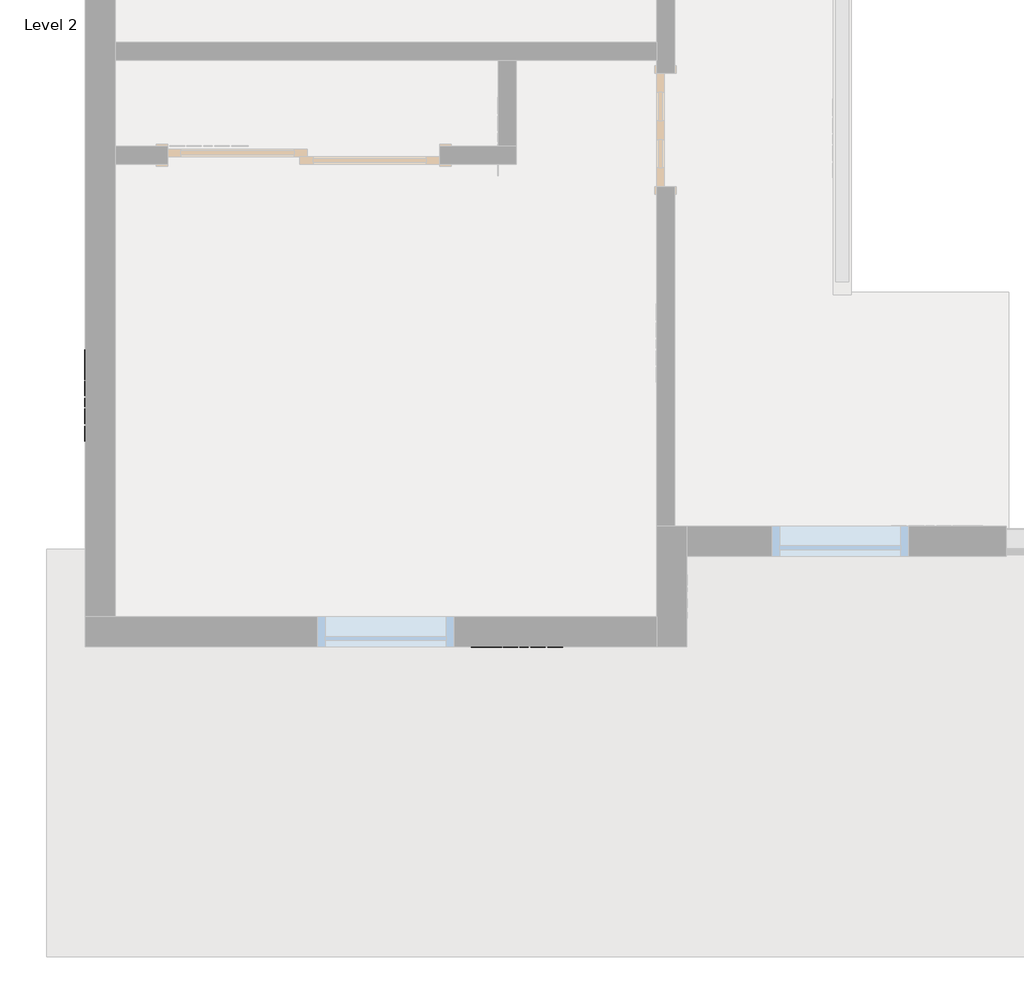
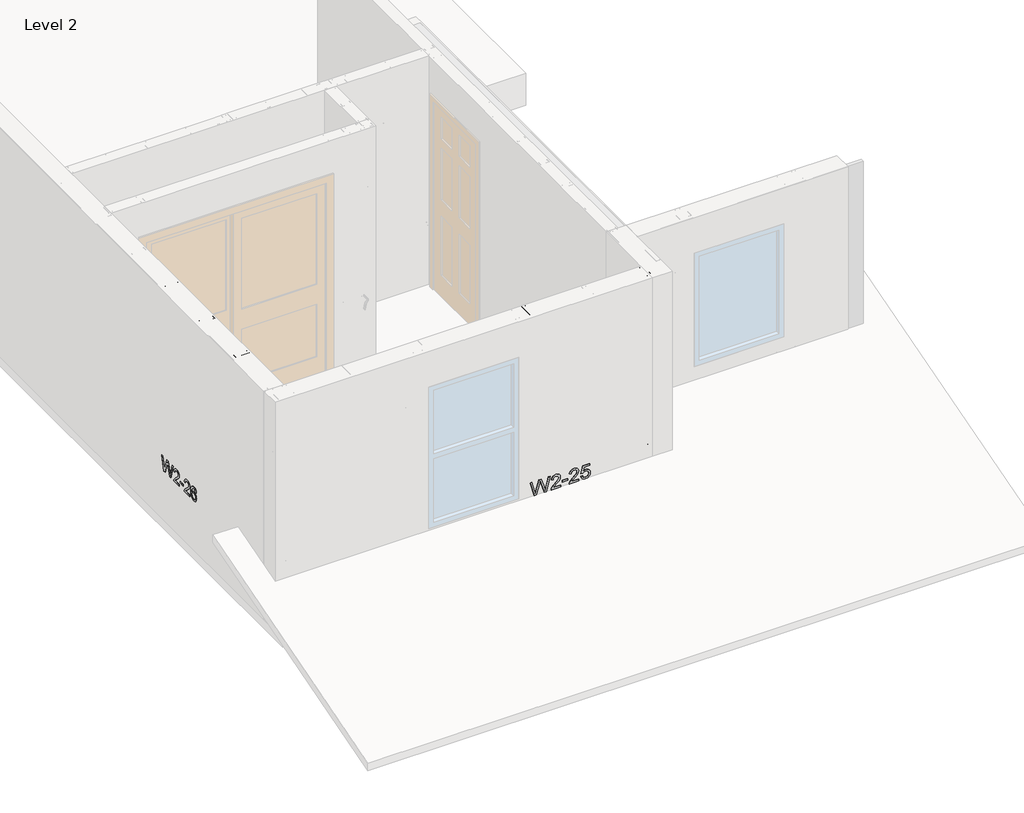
# One storey, part 4 of 46: 6 columns, 2 fasteners, 1 beam.
"""IFC4 building model written with IfcOpenShell, lengths in millimetres."""

from ifc_helpers import new_model, si_unit, point, frame, origin, place, context, project, spatial, circle_curve, ellipse_curve, trimmed, transform, mapped, element, save
from ifc_brep_helpers import plane_surface, extruded_surface, advanced_brep
from components import beam_550nf150_43_00d6688c, panellabel_a3b1b412, panellabel_652a8146

model = new_model("IFC4")

# Units and contexts
model_context = context("Model", 3, world=origin())
ifc_project = project(units=[si_unit("LENGTHUNIT", "METRE", prefix="MILLI")], contexts=[model_context])

# Site, building, storey
site = spatial("IfcSite", under=ifc_project)
building = spatial("IfcBuilding", under=site)
storey = spatial("IfcBuildingStorey", under=building, Name="Level 2", Elevation=3060.7)

# Beam
placement = place(None, origin())
beam_550nf150_43_shape = beam_550nf150_43_00d6688c(model_context)
element("IfcBeam", 1, ObjectType="BIMSF-SSMA-S : 550NF150-43", at=placement, inside=storey, context=model_context, shape_type="MappedRepresentation", body=[
    mapped(beam_550nf150_43_shape, transform((-11384.0913349, 2117.852221, 3076.575), x_axis=(0.0, -1.0000000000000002, 0.0), y_axis=(0.0, 0.0, -1.0000000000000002), z_axis=(1.0000000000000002, 0.0, 0.0))),
])

# Columns
element("IfcColumn", 2, ObjectType="BIMSF-SSMA-S-Column : 550NF150-43", at=placement, inside=storey, context=model_context, shape_type="AdvancedBrep", body=[
    advanced_brep(
    [(-11314.2413349, 1813.052221, 3061.5929687), (-11453.9413349, 1813.052221, 3061.5929687), (-11453.9413349, 1851.152221, 3061.5929687), (-11448.0164507, 1851.152221, 3061.5929687), (-11448.0164507, 1850.0025367, 3061.5929687), (-11452.7916507, 1850.0025367, 3061.5929687), (-11452.7916507, 1814.2019052, 3061.5929687), (-11315.3910191, 1814.2019052, 3061.5929687), (-11315.3910191, 1850.0025367, 3061.5929687), (-11320.1662191, 1850.0025367, 3061.5929687), (-11320.1662191, 1851.152221, 3061.5929687), (-11314.2413349, 1851.152221, 3061.5929687), (-11314.2413349, 1813.052221, 5523.6070313), (-11453.9413349, 1813.052221, 5523.6070313), (-11396.7913349, 1813.052221, 3671.1929688), (-11371.3913349, 1813.052221, 3671.1929688), (-11396.7913349, 1813.052221, 4890.3929687), (-11371.3913349, 1813.052221, 4890.3929687), (-11453.9413349, 1851.152221, 5523.6070313), (-11448.0164507, 1851.152221, 5523.6070313), (-11448.0164507, 1850.0025367, 5523.6070313), (-11452.7916507, 1850.0025367, 5523.6070313), (-11452.7916507, 1814.2019052, 5523.6070313), (-11315.3910191, 1814.2019052, 5523.6070313), (-11371.3913349, 1814.2019052, 3671.1929688), (-11396.7913349, 1814.2019052, 3671.1929687), (-11371.3913349, 1814.2019052, 4890.3929687), (-11396.7913349, 1814.2019052, 4890.3929687), (-11315.3910191, 1850.0025367, 5523.6070313), (-11320.1662191, 1850.0025367, 5523.6070313), (-11320.1662191, 1851.152221, 5523.6070313), (-11314.2413349, 1851.152221, 5523.6070313)],
    [
        (0, 1),
        (1, 2),
        (2, 3),
        (3, 4),
        (4, 5),
        (5, 6),
        (6, 7),
        (7, 8),
        (8, 9),
        (9, 10),
        (10, 11),
        (11, 0),
        (0, 12),
        (12, 13),
        (13, 1),
        (14, 15, circle_curve(frame((-11384.0913349, 1813.052221, 3671.1929687), z_axis=(0.0, 1.0, 0.0), x_axis=(-1.0, 0.0, 0.0)), 12.7)),
        (15, 14, circle_curve(frame((-11384.0913349, 1813.052221, 3671.1929687), z_axis=(0.0, 1.0, 0.0), x_axis=(-1.0, 0.0, 0.0)), 12.7)),
        (16, 17, circle_curve(frame((-11384.0913349, 1813.052221, 4890.3929687), z_axis=(0.0, 1.0, 0.0), x_axis=(-1.0, 0.0, 0.0)), 12.7)),
        (17, 16, circle_curve(frame((-11384.0913349, 1813.052221, 4890.3929687), z_axis=(0.0, 1.0, 0.0), x_axis=(-1.0, 0.0, 0.0)), 12.7)),
        (13, 18),
        (18, 2),
        (18, 19),
        (19, 3),
        (19, 20),
        (20, 4),
        (20, 21),
        (21, 5),
        (21, 22),
        (22, 6),
        (22, 23),
        (23, 7),
        (24, 25, circle_curve(frame((-11384.0913349, 1814.2019052, 3671.1929687), z_axis=(0.0, -1.0, 0.0), x_axis=(-1.0, 0.0, 0.0)), 12.7)),
        (25, 24, circle_curve(frame((-11384.0913349, 1814.2019052, 3671.1929687), z_axis=(0.0, -1.0, 0.0), x_axis=(-1.0, 0.0, 0.0)), 12.7)),
        (26, 27, circle_curve(frame((-11384.0913349, 1814.2019052, 4890.3929687), z_axis=(0.0, -1.0, 0.0), x_axis=(-1.0, 0.0, 0.0)), 12.7)),
        (27, 26, circle_curve(frame((-11384.0913349, 1814.2019052, 4890.3929687), z_axis=(0.0, -1.0, 0.0), x_axis=(-1.0, 0.0, 0.0)), 12.7)),
        (23, 28),
        (28, 8),
        (28, 29),
        (29, 9),
        (29, 30),
        (30, 10),
        (30, 31),
        (31, 11),
        (31, 12),
        (24, 15),
        (14, 25),
        (26, 17),
        (16, 27),
    ],
    [
        plane_surface(frame((-11314.2413349, 1813.052221, 3061.5929687), z_axis=(0.0, 0.0, -1.0), x_axis=(0.0, -1.0, 0.0))),
        plane_surface(frame((-11453.9413349, 1813.052221, 5523.6070313), z_axis=(0.0, -1.0, 0.0), x_axis=(0.0, 0.0, -1.0))),
        plane_surface(frame((-11453.9413349, 1851.152221, 5523.6070313), z_axis=(-1.0, 0.0, 0.0), x_axis=(0.0, 0.0, -1.0))),
        plane_surface(frame((-11448.0164507, 1851.152221, 5523.6070313), z_axis=(0.0, 1.0, 0.0), x_axis=(0.0, 0.0, -1.0))),
        plane_surface(frame((-11448.0164507, 1850.0025367, 5523.6070313), z_axis=(1.0, 0.0, 0.0), x_axis=(0.0, 0.0, -1.0))),
        plane_surface(frame((-11452.7916507, 1850.0025367, 5523.6070313), z_axis=(0.0, -1.0, 0.0), x_axis=(0.0, 0.0, -1.0))),
        plane_surface(frame((-11452.7916507, 1814.2019052, 5523.6070313), z_axis=(1.0, 0.0, 0.0), x_axis=(0.0, 0.0, -1.0))),
        plane_surface(frame((-11315.3910191, 1814.2019052, 5523.6070313), z_axis=(0.0, 1.0, 0.0), x_axis=(0.0, 0.0, -1.0))),
        plane_surface(frame((-11315.3910191, 1850.0025367, 5523.6070313), z_axis=(-1.0, 0.0, 0.0), x_axis=(0.0, 0.0, -1.0))),
        plane_surface(frame((-11320.1662191, 1850.0025367, 5523.6070313), z_axis=(0.0, -1.0, 0.0), x_axis=(0.0, 0.0, -1.0))),
        plane_surface(frame((-11320.1662191, 1851.152221, 5523.6070313), z_axis=(-1.0, 0.0, 0.0), x_axis=(0.0, 0.0, -1.0))),
        plane_surface(frame((-11314.2413349, 1851.152221, 5523.6070313), z_axis=(0.0, 1.0, 0.0), x_axis=(0.0, 0.0, -1.0))),
        plane_surface(frame((-11314.2413349, 1813.052221, 5523.6070313), z_axis=(1.0, 0.0, 0.0), x_axis=(0.0, 0.0, -1.0))),
        plane_surface(frame((-11314.2413349, 1813.052221, 5523.6070313), z_axis=(0.0, 0.0, 1.0), x_axis=(0.0, 1.0, 0.0))),
        extruded_surface(trimmed(ellipse_curve(frame((-11384.0913349, 4294.1162835, 3671.1929688), z_axis=(0.0, -1.0, 0.0), x_axis=(-1.0, 0.0, 0.0)), 12.7, 12.7), [point((-11371.3913349, 4294.1162835, 3671.1929688))], [point((-11396.7913349, 4294.1162835, 3671.1929688))], True, "CARTESIAN"), (0.0, 4924.028125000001, 0.0), 4924.028125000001),
        extruded_surface(trimmed(ellipse_curve(frame((-11384.0913349, 4294.1162835, 3671.1929688), z_axis=(0.0, -1.0, 0.0), x_axis=(-1.0, 0.0, 0.0)), 12.7, 12.7), [point((-11396.7913349, 4294.1162835, 3671.1929688))], [point((-11371.3913349, 4294.1162835, 3671.1929688))], True, "CARTESIAN"), (0.0, 4924.028125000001, 0.0), 4924.028125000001),
        extruded_surface(trimmed(ellipse_curve(frame((-11384.0913349, 4294.1162835, 4890.3929687), z_axis=(0.0, -1.0, 0.0), x_axis=(-1.0, 0.0, 0.0)), 12.7, 12.7), [point((-11371.3913349, 4294.1162835, 4890.3929687))], [point((-11396.7913349, 4294.1162835, 4890.3929687))], True, "CARTESIAN"), (0.0, 4924.028125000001, 0.0), 4924.028125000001),
        extruded_surface(trimmed(ellipse_curve(frame((-11384.0913349, 4294.1162835, 4890.3929687), z_axis=(0.0, -1.0, 0.0), x_axis=(-1.0, 0.0, 0.0)), 12.7, 12.7), [point((-11396.7913349, 4294.1162835, 4890.3929687))], [point((-11371.3913349, 4294.1162835, 4890.3929687))], True, "CARTESIAN"), (0.0, 4924.028125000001, 0.0), 4924.028125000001),
    ],
    [
        (0, [[1, 2, 3, 4, 5, 6, 7, 8, 9, 10, 11, 12]]),
        (1, [[-1, 13, 14, 15], [16, 17], [18, 19]]),
        (2, [[-2, -15, 20, 21]]),
        (3, [[-3, -21, 22, 23]]),
        (4, [[-4, -23, 24, 25]]),
        (5, [[-5, -25, 26, 27]]),
        (6, [[-6, -27, 28, 29]]),
        (7, [[-7, -29, 30, 31], [32, 33], [34, 35]]),
        (8, [[-8, -31, 36, 37]]),
        (9, [[-9, -37, 38, 39]]),
        (10, [[-10, -39, 40, 41]]),
        (11, [[-11, -41, 42, 43]]),
        (12, [[-12, -43, 44, -13]]),
        (13, [[-14, -44, -42, -40, -38, -36, -30, -28, -26, -24, -22, -20]]),
        (14, [[45, -16, 46, -32]]),
        (15, [[-45, -33, -46, -17]]),
        (16, [[47, -18, 48, -34]]),
        (17, [[-47, -35, -48, -19]]),
    ],
),
])
element("IfcColumn", 3, ObjectType="BIMSF-SSMA-S-Column : 550NF150-43", at=placement, inside=storey, context=model_context, shape_type="AdvancedBrep", body=[
    advanced_brep(
    [(-15124.2413349, 2543.302221, 3061.5929687), (-15263.9413349, 2543.302221, 3061.5929687), (-15263.9413349, 2581.402221, 3061.5929687), (-15258.0164507, 2581.402221, 3061.5929687), (-15258.0164507, 2580.2525367, 3061.5929687), (-15262.7916507, 2580.2525367, 3061.5929687), (-15262.7916507, 2544.4519052, 3061.5929687), (-15125.3910191, 2544.4519052, 3061.5929687), (-15125.3910191, 2580.2525367, 3061.5929687), (-15130.1662191, 2580.2525367, 3061.5929687), (-15130.1662191, 2581.402221, 3061.5929687), (-15124.2413349, 2581.402221, 3061.5929687), (-15124.2413349, 2543.302221, 5523.6070313), (-15263.9413349, 2543.302221, 5523.6070313), (-15206.7913349, 2543.302221, 3671.1929688), (-15181.3913349, 2543.302221, 3671.1929688), (-15206.7913349, 2543.302221, 4890.3929687), (-15181.3913349, 2543.302221, 4890.3929687), (-15263.9413349, 2581.402221, 5523.6070313), (-15258.0164507, 2581.402221, 5523.6070313), (-15258.0164507, 2580.2525367, 5523.6070313), (-15262.7916507, 2580.2525367, 5523.6070313), (-15262.7916507, 2544.4519052, 5523.6070313), (-15125.3910191, 2544.4519052, 5523.6070313), (-15181.3913349, 2544.4519052, 3671.1929688), (-15206.7913349, 2544.4519052, 3671.1929688), (-15181.3913349, 2544.4519052, 4890.3929687), (-15206.7913349, 2544.4519052, 4890.3929687), (-15125.3910191, 2580.2525367, 5523.6070313), (-15130.1662191, 2580.2525367, 5523.6070313), (-15130.1662191, 2581.402221, 5523.6070313), (-15124.2413349, 2581.402221, 5523.6070313)],
    [
        (0, 1),
        (1, 2),
        (2, 3),
        (3, 4),
        (4, 5),
        (5, 6),
        (6, 7),
        (7, 8),
        (8, 9),
        (9, 10),
        (10, 11),
        (11, 0),
        (0, 12),
        (12, 13),
        (13, 1),
        (14, 15, circle_curve(frame((-15194.0913349, 2543.302221, 3671.1929688), z_axis=(0.0, 1.0, 0.0), x_axis=(-1.0, 0.0, 0.0)), 12.7)),
        (15, 14, circle_curve(frame((-15194.0913349, 2543.302221, 3671.1929688), z_axis=(0.0, 1.0, 0.0), x_axis=(-1.0, 0.0, 0.0)), 12.7)),
        (16, 17, circle_curve(frame((-15194.0913349, 2543.302221, 4890.3929688), z_axis=(0.0, 1.0, 0.0), x_axis=(-1.0, 0.0, 0.0)), 12.7)),
        (17, 16, circle_curve(frame((-15194.0913349, 2543.302221, 4890.3929688), z_axis=(0.0, 1.0, 0.0), x_axis=(-1.0, 0.0, 0.0)), 12.7)),
        (13, 18),
        (18, 2),
        (18, 19),
        (19, 3),
        (19, 20),
        (20, 4),
        (20, 21),
        (21, 5),
        (21, 22),
        (22, 6),
        (22, 23),
        (23, 7),
        (24, 25, circle_curve(frame((-15194.0913349, 2544.4519052, 3671.1929688), z_axis=(0.0, -1.0, 0.0), x_axis=(-1.0, 0.0, 0.0)), 12.7)),
        (25, 24, circle_curve(frame((-15194.0913349, 2544.4519052, 3671.1929688), z_axis=(0.0, -1.0, 0.0), x_axis=(-1.0, 0.0, 0.0)), 12.7)),
        (26, 27, circle_curve(frame((-15194.0913349, 2544.4519052, 4890.3929687), z_axis=(0.0, -1.0, 0.0), x_axis=(-1.0, 0.0, 0.0)), 12.7)),
        (27, 26, circle_curve(frame((-15194.0913349, 2544.4519052, 4890.3929687), z_axis=(0.0, -1.0, 0.0), x_axis=(-1.0, 0.0, 0.0)), 12.7)),
        (23, 28),
        (28, 8),
        (28, 29),
        (29, 9),
        (29, 30),
        (30, 10),
        (30, 31),
        (31, 11),
        (31, 12),
        (24, 15),
        (14, 25),
        (26, 17),
        (16, 27),
    ],
    [
        plane_surface(frame((-15124.2413349, 2543.302221, 3061.5929687), z_axis=(0.0, 0.0, -1.0), x_axis=(0.0, -1.0, 0.0))),
        plane_surface(frame((-15263.9413349, 2543.302221, 5523.6070313), z_axis=(0.0, -1.0, 0.0), x_axis=(0.0, 0.0, -1.0))),
        plane_surface(frame((-15263.9413349, 2581.402221, 5523.6070313), z_axis=(-1.0, 0.0, 0.0), x_axis=(0.0, 0.0, -1.0))),
        plane_surface(frame((-15258.0164507, 2581.402221, 5523.6070313), z_axis=(0.0, 1.0, 0.0), x_axis=(0.0, 0.0, -1.0))),
        plane_surface(frame((-15258.0164507, 2580.2525367, 5523.6070313), z_axis=(1.0, 0.0, 0.0), x_axis=(0.0, 0.0, -1.0))),
        plane_surface(frame((-15262.7916507, 2580.2525367, 5523.6070313), z_axis=(0.0, -1.0, 0.0), x_axis=(0.0, 0.0, -1.0))),
        plane_surface(frame((-15262.7916507, 2544.4519052, 5523.6070313), z_axis=(1.0, 0.0, 0.0), x_axis=(0.0, 0.0, -1.0))),
        plane_surface(frame((-15125.3910191, 2544.4519052, 5523.6070313), z_axis=(0.0, 1.0, 0.0), x_axis=(0.0, 0.0, -1.0))),
        plane_surface(frame((-15125.3910191, 2580.2525367, 5523.6070313), z_axis=(-1.0, 0.0, 0.0), x_axis=(0.0, 0.0, -1.0))),
        plane_surface(frame((-15130.1662191, 2580.2525367, 5523.6070313), z_axis=(0.0, -1.0, 0.0), x_axis=(0.0, 0.0, -1.0))),
        plane_surface(frame((-15130.1662191, 2581.402221, 5523.6070313), z_axis=(-1.0, 0.0, 0.0), x_axis=(0.0, 0.0, -1.0))),
        plane_surface(frame((-15124.2413349, 2581.402221, 5523.6070313), z_axis=(0.0, 1.0, 0.0), x_axis=(0.0, 0.0, -1.0))),
        plane_surface(frame((-15124.2413349, 2543.302221, 5523.6070313), z_axis=(1.0, 0.0, 0.0), x_axis=(0.0, 0.0, -1.0))),
        plane_surface(frame((-15124.2413349, 2543.302221, 5523.6070313), z_axis=(0.0, 0.0, 1.0), x_axis=(0.0, 1.0, 0.0))),
        extruded_surface(trimmed(ellipse_curve(frame((-15194.0913349, 5024.3662835, 3671.1929688), z_axis=(0.0, -1.0, 0.0), x_axis=(-1.0, 0.0, 0.0)), 12.7, 12.7), [point((-15181.3913349, 5024.3662835, 3671.1929688))], [point((-15206.7913349, 5024.3662835, 3671.1929688))], True, "CARTESIAN"), (0.0, 4924.028125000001, 0.0), 4924.028125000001),
        extruded_surface(trimmed(ellipse_curve(frame((-15194.0913349, 5024.3662835, 3671.1929688), z_axis=(0.0, -1.0, 0.0), x_axis=(-1.0, 0.0, 0.0)), 12.7, 12.7), [point((-15206.7913349, 5024.3662835, 3671.1929688))], [point((-15181.3913349, 5024.3662835, 3671.1929688))], True, "CARTESIAN"), (0.0, 4924.028125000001, 0.0), 4924.028125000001),
        extruded_surface(trimmed(ellipse_curve(frame((-15194.0913349, 5024.3662835, 4890.3929687), z_axis=(0.0, -1.0, 0.0), x_axis=(-1.0, 0.0, 0.0)), 12.7, 12.7), [point((-15181.3913349, 5024.3662835, 4890.3929687))], [point((-15206.7913349, 5024.3662835, 4890.3929687))], True, "CARTESIAN"), (0.0, 4924.028125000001, 0.0), 4924.028125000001),
        extruded_surface(trimmed(ellipse_curve(frame((-15194.0913349, 5024.3662835, 4890.3929687), z_axis=(0.0, -1.0, 0.0), x_axis=(-1.0, 0.0, 0.0)), 12.7, 12.7), [point((-15206.7913349, 5024.3662835, 4890.3929687))], [point((-15181.3913349, 5024.3662835, 4890.3929687))], True, "CARTESIAN"), (0.0, 4924.028125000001, 0.0), 4924.028125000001),
    ],
    [
        (0, [[1, 2, 3, 4, 5, 6, 7, 8, 9, 10, 11, 12]]),
        (1, [[-1, 13, 14, 15], [16, 17], [18, 19]]),
        (2, [[-2, -15, 20, 21]]),
        (3, [[-3, -21, 22, 23]]),
        (4, [[-4, -23, 24, 25]]),
        (5, [[-5, -25, 26, 27]]),
        (6, [[-6, -27, 28, 29]]),
        (7, [[-7, -29, 30, 31], [32, 33], [34, 35]]),
        (8, [[-8, -31, 36, 37]]),
        (9, [[-9, -37, 38, 39]]),
        (10, [[-10, -39, 40, 41]]),
        (11, [[-11, -41, 42, 43]]),
        (12, [[-12, -43, 44, -13]]),
        (13, [[-14, -44, -42, -40, -38, -36, -30, -28, -26, -24, -22, -20]]),
        (14, [[45, -16, 46, -32]]),
        (15, [[-45, -33, -46, -17]]),
        (16, [[47, -18, 48, -34]]),
        (17, [[-47, -35, -48, -19]]),
    ],
),
])
element("IfcColumn", 4, ObjectType="BIMSF-SSMA-S-Column : 550NF150-43", at=placement, inside=storey, context=model_context, shape_type="AdvancedBrep", body=[
    advanced_brep(
    [(-15124.2413349, 3152.902221, 3061.5929687), (-15263.9413349, 3152.902221, 3061.5929687), (-15263.9413349, 3191.002221, 3061.5929687), (-15258.0164507, 3191.002221, 3061.5929687), (-15258.0164507, 3189.8525367, 3061.5929687), (-15262.7916507, 3189.8525367, 3061.5929687), (-15262.7916507, 3154.0519052, 3061.5929687), (-15125.3910191, 3154.0519052, 3061.5929687), (-15125.3910191, 3189.8525367, 3061.5929687), (-15130.1662191, 3189.8525367, 3061.5929687), (-15130.1662191, 3191.002221, 3061.5929687), (-15124.2413349, 3191.002221, 3061.5929687), (-15124.2413349, 3152.902221, 5523.6070313), (-15263.9413349, 3152.902221, 5523.6070313), (-15206.7913349, 3152.902221, 3671.1929688), (-15181.3913349, 3152.902221, 3671.1929688), (-15206.7913349, 3152.902221, 4890.3929687), (-15181.3913349, 3152.902221, 4890.3929687), (-15263.9413349, 3191.002221, 5523.6070313), (-15258.0164507, 3191.002221, 5523.6070313), (-15258.0164507, 3189.8525367, 5523.6070313), (-15262.7916507, 3189.8525367, 5523.6070313), (-15262.7916507, 3154.0519052, 5523.6070313), (-15125.3910191, 3154.0519052, 5523.6070313), (-15181.3913349, 3154.0519052, 3671.1929688), (-15206.7913349, 3154.0519052, 3671.1929688), (-15181.3913349, 3154.0519052, 4890.3929687), (-15206.7913349, 3154.0519052, 4890.3929687), (-15125.3910191, 3189.8525367, 5523.6070313), (-15130.1662191, 3189.8525367, 5523.6070313), (-15130.1662191, 3191.002221, 5523.6070313), (-15124.2413349, 3191.002221, 5523.6070313)],
    [
        (0, 1),
        (1, 2),
        (2, 3),
        (3, 4),
        (4, 5),
        (5, 6),
        (6, 7),
        (7, 8),
        (8, 9),
        (9, 10),
        (10, 11),
        (11, 0),
        (0, 12),
        (12, 13),
        (13, 1),
        (14, 15, circle_curve(frame((-15194.0913349, 3152.902221, 3671.1929688), z_axis=(0.0, 1.0, 0.0), x_axis=(-1.0, 0.0, 0.0)), 12.7)),
        (15, 14, circle_curve(frame((-15194.0913349, 3152.902221, 3671.1929688), z_axis=(0.0, 1.0, 0.0), x_axis=(-1.0, 0.0, 0.0)), 12.7)),
        (16, 17, circle_curve(frame((-15194.0913349, 3152.902221, 4890.3929688), z_axis=(0.0, 1.0, 0.0), x_axis=(-1.0, 0.0, 0.0)), 12.7)),
        (17, 16, circle_curve(frame((-15194.0913349, 3152.902221, 4890.3929688), z_axis=(0.0, 1.0, 0.0), x_axis=(-1.0, 0.0, 0.0)), 12.7)),
        (13, 18),
        (18, 2),
        (18, 19),
        (19, 3),
        (19, 20),
        (20, 4),
        (20, 21),
        (21, 5),
        (21, 22),
        (22, 6),
        (22, 23),
        (23, 7),
        (24, 25, circle_curve(frame((-15194.0913349, 3154.0519052, 3671.1929688), z_axis=(0.0, -1.0, 0.0), x_axis=(-1.0, 0.0, 0.0)), 12.7)),
        (25, 24, circle_curve(frame((-15194.0913349, 3154.0519052, 3671.1929688), z_axis=(0.0, -1.0, 0.0), x_axis=(-1.0, 0.0, 0.0)), 12.7)),
        (26, 27, circle_curve(frame((-15194.0913349, 3154.0519052, 4890.3929687), z_axis=(0.0, -1.0, 0.0), x_axis=(-1.0, 0.0, 0.0)), 12.7)),
        (27, 26, circle_curve(frame((-15194.0913349, 3154.0519052, 4890.3929687), z_axis=(0.0, -1.0, 0.0), x_axis=(-1.0, 0.0, 0.0)), 12.7)),
        (23, 28),
        (28, 8),
        (28, 29),
        (29, 9),
        (29, 30),
        (30, 10),
        (30, 31),
        (31, 11),
        (31, 12),
        (24, 15),
        (14, 25),
        (26, 17),
        (16, 27),
    ],
    [
        plane_surface(frame((-15124.2413349, 3152.902221, 3061.5929687), z_axis=(0.0, 0.0, -1.0), x_axis=(0.0, -1.0, 0.0))),
        plane_surface(frame((-15263.9413349, 3152.902221, 5523.6070313), z_axis=(0.0, -1.0, 0.0), x_axis=(0.0, 0.0, -1.0))),
        plane_surface(frame((-15263.9413349, 3191.002221, 5523.6070313), z_axis=(-1.0, 0.0, 0.0), x_axis=(0.0, 0.0, -1.0))),
        plane_surface(frame((-15258.0164507, 3191.002221, 5523.6070313), z_axis=(0.0, 1.0, 0.0), x_axis=(0.0, 0.0, -1.0))),
        plane_surface(frame((-15258.0164507, 3189.8525367, 5523.6070313), z_axis=(1.0, 0.0, 0.0), x_axis=(0.0, 0.0, -1.0))),
        plane_surface(frame((-15262.7916507, 3189.8525367, 5523.6070313), z_axis=(0.0, -1.0, 0.0), x_axis=(0.0, 0.0, -1.0))),
        plane_surface(frame((-15262.7916507, 3154.0519052, 5523.6070313), z_axis=(1.0, 0.0, 0.0), x_axis=(0.0, 0.0, -1.0))),
        plane_surface(frame((-15125.3910191, 3154.0519052, 5523.6070313), z_axis=(0.0, 1.0, 0.0), x_axis=(0.0, 0.0, -1.0))),
        plane_surface(frame((-15125.3910191, 3189.8525367, 5523.6070313), z_axis=(-1.0, 0.0, 0.0), x_axis=(0.0, 0.0, -1.0))),
        plane_surface(frame((-15130.1662191, 3189.8525367, 5523.6070313), z_axis=(0.0, -1.0, 0.0), x_axis=(0.0, 0.0, -1.0))),
        plane_surface(frame((-15130.1662191, 3191.002221, 5523.6070313), z_axis=(-1.0, 0.0, 0.0), x_axis=(0.0, 0.0, -1.0))),
        plane_surface(frame((-15124.2413349, 3191.002221, 5523.6070313), z_axis=(0.0, 1.0, 0.0), x_axis=(0.0, 0.0, -1.0))),
        plane_surface(frame((-15124.2413349, 3152.902221, 5523.6070313), z_axis=(1.0, 0.0, 0.0), x_axis=(0.0, 0.0, -1.0))),
        plane_surface(frame((-15124.2413349, 3152.902221, 5523.6070313), z_axis=(0.0, 0.0, 1.0), x_axis=(0.0, 1.0, 0.0))),
        extruded_surface(trimmed(ellipse_curve(frame((-15194.0913349, 5633.9662835, 3671.1929688), z_axis=(0.0, -1.0, 0.0), x_axis=(-1.0, 0.0, 0.0)), 12.7, 12.7), [point((-15181.3913349, 5633.9662835, 3671.1929688))], [point((-15206.7913349, 5633.9662835, 3671.1929688))], True, "CARTESIAN"), (0.0, 4924.028125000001, 0.0), 4924.028125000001),
        extruded_surface(trimmed(ellipse_curve(frame((-15194.0913349, 5633.9662835, 3671.1929688), z_axis=(0.0, -1.0, 0.0), x_axis=(-1.0, 0.0, 0.0)), 12.7, 12.7), [point((-15206.7913349, 5633.9662835, 3671.1929688))], [point((-15181.3913349, 5633.9662835, 3671.1929688))], True, "CARTESIAN"), (0.0, 4924.028125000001, 0.0), 4924.028125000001),
        extruded_surface(trimmed(ellipse_curve(frame((-15194.0913349, 5633.9662835, 4890.3929687), z_axis=(0.0, -1.0, 0.0), x_axis=(-1.0, 0.0, 0.0)), 12.7, 12.7), [point((-15181.3913349, 5633.9662835, 4890.3929687))], [point((-15206.7913349, 5633.9662835, 4890.3929687))], True, "CARTESIAN"), (0.0, 4924.028125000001, 0.0), 4924.028125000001),
        extruded_surface(trimmed(ellipse_curve(frame((-15194.0913349, 5633.9662835, 4890.3929687), z_axis=(0.0, -1.0, 0.0), x_axis=(-1.0, 0.0, 0.0)), 12.7, 12.7), [point((-15206.7913349, 5633.9662835, 4890.3929687))], [point((-15181.3913349, 5633.9662835, 4890.3929687))], True, "CARTESIAN"), (0.0, 4924.028125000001, 0.0), 4924.028125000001),
    ],
    [
        (0, [[1, 2, 3, 4, 5, 6, 7, 8, 9, 10, 11, 12]]),
        (1, [[-1, 13, 14, 15], [16, 17], [18, 19]]),
        (2, [[-2, -15, 20, 21]]),
        (3, [[-3, -21, 22, 23]]),
        (4, [[-4, -23, 24, 25]]),
        (5, [[-5, -25, 26, 27]]),
        (6, [[-6, -27, 28, 29]]),
        (7, [[-7, -29, 30, 31], [32, 33], [34, 35]]),
        (8, [[-8, -31, 36, 37]]),
        (9, [[-9, -37, 38, 39]]),
        (10, [[-10, -39, 40, 41]]),
        (11, [[-11, -41, 42, 43]]),
        (12, [[-12, -43, 44, -13]]),
        (13, [[-14, -44, -42, -40, -38, -36, -30, -28, -26, -24, -22, -20]]),
        (14, [[45, -16, 46, -32]]),
        (15, [[-45, -33, -46, -17]]),
        (16, [[47, -18, 48, -34]]),
        (17, [[-47, -35, -48, -19]]),
    ],
),
])
element("IfcColumn", 5, ObjectType="BIMSF-SSMA-S-Column : 550NF150-43", at=placement, inside=storey, context=model_context, shape_type="AdvancedBrep", body=[
    advanced_brep(
    [(-15124.2413349, 3762.502221, 3061.5929687), (-15263.9413349, 3762.502221, 3061.5929687), (-15263.9413349, 3800.602221, 3061.5929687), (-15258.0164507, 3800.602221, 3061.5929687), (-15258.0164507, 3799.4525367, 3061.5929687), (-15262.7916507, 3799.4525367, 3061.5929687), (-15262.7916507, 3763.6519052, 3061.5929687), (-15125.3910191, 3763.6519052, 3061.5929687), (-15125.3910191, 3799.4525367, 3061.5929687), (-15130.1662191, 3799.4525367, 3061.5929687), (-15130.1662191, 3800.602221, 3061.5929687), (-15124.2413349, 3800.602221, 3061.5929687), (-15124.2413349, 3762.502221, 5523.6070313), (-15263.9413349, 3762.502221, 5523.6070313), (-15206.7913349, 3762.502221, 3671.1929687), (-15181.3913349, 3762.502221, 3671.1929687), (-15206.7913349, 3762.502221, 4890.3929687), (-15181.3913349, 3762.502221, 4890.3929687), (-15263.9413349, 3800.602221, 5523.6070313), (-15258.0164507, 3800.602221, 5523.6070313), (-15258.0164507, 3799.4525367, 5523.6070313), (-15262.7916507, 3799.4525367, 5523.6070313), (-15262.7916507, 3763.6519052, 5523.6070313), (-15125.3910191, 3763.6519052, 5523.6070313), (-15181.3913349, 3763.6519052, 3671.1929688), (-15206.7913349, 3763.6519052, 3671.1929688), (-15181.3913349, 3763.6519052, 4890.3929687), (-15206.7913349, 3763.6519052, 4890.3929687), (-15125.3910191, 3799.4525367, 5523.6070313), (-15130.1662191, 3799.4525367, 5523.6070313), (-15130.1662191, 3800.602221, 5523.6070313), (-15124.2413349, 3800.602221, 5523.6070313)],
    [
        (0, 1),
        (1, 2),
        (2, 3),
        (3, 4),
        (4, 5),
        (5, 6),
        (6, 7),
        (7, 8),
        (8, 9),
        (9, 10),
        (10, 11),
        (11, 0),
        (0, 12),
        (12, 13),
        (13, 1),
        (14, 15, circle_curve(frame((-15194.0913349, 3762.502221, 3671.1929688), z_axis=(0.0, 1.0, 0.0), x_axis=(-1.0, 0.0, 0.0)), 12.7)),
        (15, 14, circle_curve(frame((-15194.0913349, 3762.502221, 3671.1929688), z_axis=(0.0, 1.0, 0.0), x_axis=(-1.0, 0.0, 0.0)), 12.7)),
        (16, 17, circle_curve(frame((-15194.0913349, 3762.502221, 4890.3929687), z_axis=(0.0, 1.0, 0.0), x_axis=(-1.0, 0.0, 0.0)), 12.7)),
        (17, 16, circle_curve(frame((-15194.0913349, 3762.502221, 4890.3929687), z_axis=(0.0, 1.0, 0.0), x_axis=(-1.0, 0.0, 0.0)), 12.7)),
        (13, 18),
        (18, 2),
        (18, 19),
        (19, 3),
        (19, 20),
        (20, 4),
        (20, 21),
        (21, 5),
        (21, 22),
        (22, 6),
        (22, 23),
        (23, 7),
        (24, 25, circle_curve(frame((-15194.0913349, 3763.6519052, 3671.1929688), z_axis=(0.0, -1.0, 0.0), x_axis=(-1.0, 0.0, 0.0)), 12.7)),
        (25, 24, circle_curve(frame((-15194.0913349, 3763.6519052, 3671.1929688), z_axis=(0.0, -1.0, 0.0), x_axis=(-1.0, 0.0, 0.0)), 12.7)),
        (26, 27, circle_curve(frame((-15194.0913349, 3763.6519052, 4890.3929687), z_axis=(0.0, -1.0, 0.0), x_axis=(-1.0, 0.0, 0.0)), 12.7)),
        (27, 26, circle_curve(frame((-15194.0913349, 3763.6519052, 4890.3929687), z_axis=(0.0, -1.0, 0.0), x_axis=(-1.0, 0.0, 0.0)), 12.7)),
        (23, 28),
        (28, 8),
        (28, 29),
        (29, 9),
        (29, 30),
        (30, 10),
        (30, 31),
        (31, 11),
        (31, 12),
        (24, 15),
        (14, 25),
        (26, 17),
        (16, 27),
    ],
    [
        plane_surface(frame((-15124.2413349, 3762.502221, 3061.5929687), z_axis=(0.0, 0.0, -1.0), x_axis=(0.0, -1.0, 0.0))),
        plane_surface(frame((-15263.9413349, 3762.502221, 5523.6070313), z_axis=(0.0, -1.0, 0.0), x_axis=(0.0, 0.0, -1.0))),
        plane_surface(frame((-15263.9413349, 3800.602221, 5523.6070313), z_axis=(-1.0, 0.0, 0.0), x_axis=(0.0, 0.0, -1.0))),
        plane_surface(frame((-15258.0164507, 3800.602221, 5523.6070313), z_axis=(0.0, 1.0, 0.0), x_axis=(0.0, 0.0, -1.0))),
        plane_surface(frame((-15258.0164507, 3799.4525367, 5523.6070313), z_axis=(1.0, 0.0, 0.0), x_axis=(0.0, 0.0, -1.0))),
        plane_surface(frame((-15262.7916507, 3799.4525367, 5523.6070313), z_axis=(0.0, -1.0, 0.0), x_axis=(0.0, 0.0, -1.0))),
        plane_surface(frame((-15262.7916507, 3763.6519052, 5523.6070313), z_axis=(1.0, 0.0, 0.0), x_axis=(0.0, 0.0, -1.0))),
        plane_surface(frame((-15125.3910191, 3763.6519052, 5523.6070313), z_axis=(0.0, 1.0, 0.0), x_axis=(0.0, 0.0, -1.0))),
        plane_surface(frame((-15125.3910191, 3799.4525367, 5523.6070313), z_axis=(-1.0, 0.0, 0.0), x_axis=(0.0, 0.0, -1.0))),
        plane_surface(frame((-15130.1662191, 3799.4525367, 5523.6070313), z_axis=(0.0, -1.0, 0.0), x_axis=(0.0, 0.0, -1.0))),
        plane_surface(frame((-15130.1662191, 3800.602221, 5523.6070313), z_axis=(-1.0, 0.0, 0.0), x_axis=(0.0, 0.0, -1.0))),
        plane_surface(frame((-15124.2413349, 3800.602221, 5523.6070313), z_axis=(0.0, 1.0, 0.0), x_axis=(0.0, 0.0, -1.0))),
        plane_surface(frame((-15124.2413349, 3762.502221, 5523.6070313), z_axis=(1.0, 0.0, 0.0), x_axis=(0.0, 0.0, -1.0))),
        plane_surface(frame((-15124.2413349, 3762.502221, 5523.6070313), z_axis=(0.0, 0.0, 1.0), x_axis=(0.0, 1.0, 0.0))),
        extruded_surface(trimmed(ellipse_curve(frame((-15194.0913349, 6243.5662835, 3671.1929688), z_axis=(0.0, -1.0, 0.0), x_axis=(-1.0, 0.0, 0.0)), 12.7, 12.7), [point((-15181.3913349, 6243.5662835, 3671.1929688))], [point((-15206.7913349, 6243.5662835, 3671.1929688))], True, "CARTESIAN"), (0.0, 4924.028124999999, 0.0), 4924.028124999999),
        extruded_surface(trimmed(ellipse_curve(frame((-15194.0913349, 6243.5662835, 3671.1929688), z_axis=(0.0, -1.0, 0.0), x_axis=(-1.0, 0.0, 0.0)), 12.7, 12.7), [point((-15206.7913349, 6243.5662835, 3671.1929688))], [point((-15181.3913349, 6243.5662835, 3671.1929688))], True, "CARTESIAN"), (0.0, 4924.028124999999, 0.0), 4924.028124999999),
        extruded_surface(trimmed(ellipse_curve(frame((-15194.0913349, 6243.5662835, 4890.3929687), z_axis=(0.0, -1.0, 0.0), x_axis=(-1.0, 0.0, 0.0)), 12.7, 12.7), [point((-15181.3913349, 6243.5662835, 4890.3929687))], [point((-15206.7913349, 6243.5662835, 4890.3929687))], True, "CARTESIAN"), (0.0, 4924.028124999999, 0.0), 4924.028124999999),
        extruded_surface(trimmed(ellipse_curve(frame((-15194.0913349, 6243.5662835, 4890.3929687), z_axis=(0.0, -1.0, 0.0), x_axis=(-1.0, 0.0, 0.0)), 12.7, 12.7), [point((-15206.7913349, 6243.5662835, 4890.3929687))], [point((-15181.3913349, 6243.5662835, 4890.3929687))], True, "CARTESIAN"), (0.0, 4924.028124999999, 0.0), 4924.028124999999),
    ],
    [
        (0, [[1, 2, 3, 4, 5, 6, 7, 8, 9, 10, 11, 12]]),
        (1, [[-1, 13, 14, 15], [16, 17], [18, 19]]),
        (2, [[-2, -15, 20, 21]]),
        (3, [[-3, -21, 22, 23]]),
        (4, [[-4, -23, 24, 25]]),
        (5, [[-5, -25, 26, 27]]),
        (6, [[-6, -27, 28, 29]]),
        (7, [[-7, -29, 30, 31], [32, 33], [34, 35]]),
        (8, [[-8, -31, 36, 37]]),
        (9, [[-9, -37, 38, 39]]),
        (10, [[-10, -39, 40, 41]]),
        (11, [[-11, -41, 42, 43]]),
        (12, [[-12, -43, 44, -13]]),
        (13, [[-14, -44, -42, -40, -38, -36, -30, -28, -26, -24, -22, -20]]),
        (14, [[45, -16, 46, -32]]),
        (15, [[-45, -33, -46, -17]]),
        (16, [[47, -18, 48, -34]]),
        (17, [[-47, -35, -48, -19]]),
    ],
),
])
element("IfcColumn", 6, ObjectType="BIMSF-SSMA-S-Column : 550NF150-43", at=placement, inside=storey, context=model_context, shape_type="AdvancedBrep", body=[
    advanced_brep(
    [(-11453.9413349, 1952.752221, 3061.5929687), (-11453.9413349, 1813.052221, 3061.5929687), (-11492.0413349, 1813.052221, 3061.5929687), (-11492.0413349, 1818.9771052, 3061.5929687), (-11490.8916507, 1818.9771052, 3061.5929687), (-11490.8916507, 1814.2019052, 3061.5929687), (-11455.0910191, 1814.2019052, 3061.5929687), (-11455.0910191, 1951.6025367, 3061.5929687), (-11490.8916507, 1951.6025367, 3061.5929687), (-11490.8916507, 1946.8273367, 3061.5929687), (-11492.0413349, 1946.8273367, 3061.5929687), (-11492.0413349, 1952.752221, 3061.5929687), (-11453.9413349, 1952.752221, 5523.6070313), (-11453.9413349, 1813.052221, 5523.6070313), (-11453.9413349, 1870.202221, 3671.1929687), (-11453.9413349, 1895.602221, 3671.1929687), (-11453.9413349, 1870.202221, 4890.3929688), (-11453.9413349, 1895.602221, 4890.3929687), (-11492.0413349, 1813.052221, 5523.6070313), (-11492.0413349, 1818.9771052, 5523.6070313), (-11490.8916507, 1818.9771052, 5523.6070313), (-11490.8916507, 1814.2019052, 5523.6070313), (-11455.0910191, 1814.2019052, 5523.6070313), (-11455.0910191, 1951.6025367, 5523.6070313), (-11455.0910191, 1895.602221, 3671.1929688), (-11455.0910191, 1870.202221, 3671.1929688), (-11455.0910191, 1895.602221, 4890.3929688), (-11455.0910191, 1870.202221, 4890.3929688), (-11490.8916507, 1951.6025367, 5523.6070313), (-11490.8916507, 1946.8273367, 5523.6070313), (-11492.0413349, 1946.8273367, 5523.6070313), (-11492.0413349, 1952.752221, 5523.6070313)],
    [
        (0, 1),
        (1, 2),
        (2, 3),
        (3, 4),
        (4, 5),
        (5, 6),
        (6, 7),
        (7, 8),
        (8, 9),
        (9, 10),
        (10, 11),
        (11, 0),
        (0, 12),
        (12, 13),
        (13, 1),
        (14, 15, circle_curve(frame((-11453.9413349, 1882.902221, 3671.1929688), z_axis=(-1.0, 0.0, 0.0), x_axis=(0.0, -1.0, 0.0)), 12.7)),
        (15, 14, circle_curve(frame((-11453.9413349, 1882.902221, 3671.1929688), z_axis=(-1.0, 0.0, 0.0), x_axis=(0.0, -1.0, 0.0)), 12.7)),
        (16, 17, circle_curve(frame((-11453.9413349, 1882.902221, 4890.3929687), z_axis=(-1.0, 0.0, 0.0), x_axis=(0.0, -1.0, 0.0)), 12.7)),
        (17, 16, circle_curve(frame((-11453.9413349, 1882.902221, 4890.3929687), z_axis=(-1.0, 0.0, 0.0), x_axis=(0.0, -1.0, 0.0)), 12.7)),
        (13, 18),
        (18, 2),
        (18, 19),
        (19, 3),
        (19, 20),
        (20, 4),
        (20, 21),
        (21, 5),
        (21, 22),
        (22, 6),
        (22, 23),
        (23, 7),
        (24, 25, circle_curve(frame((-11455.0910191, 1882.902221, 3671.1929688), z_axis=(1.0, 0.0, 0.0), x_axis=(0.0, -1.0, 0.0)), 12.7)),
        (25, 24, circle_curve(frame((-11455.0910191, 1882.902221, 3671.1929688), z_axis=(1.0, 0.0, 0.0), x_axis=(0.0, -1.0, 0.0)), 12.7)),
        (26, 27, circle_curve(frame((-11455.0910191, 1882.902221, 4890.3929687), z_axis=(1.0, 0.0, 0.0), x_axis=(0.0, -1.0, 0.0)), 12.7)),
        (27, 26, circle_curve(frame((-11455.0910191, 1882.902221, 4890.3929687), z_axis=(1.0, 0.0, 0.0), x_axis=(0.0, -1.0, 0.0)), 12.7)),
        (23, 28),
        (28, 8),
        (28, 29),
        (29, 9),
        (29, 30),
        (30, 10),
        (30, 31),
        (31, 11),
        (31, 12),
        (24, 15),
        (14, 25),
        (26, 17),
        (16, 27),
    ],
    [
        plane_surface(frame((-11453.9413349, 1952.752221, 3061.5929687), z_axis=(0.0, 0.0, -1.0), x_axis=(1.0, 0.0, 0.0))),
        plane_surface(frame((-11453.9413349, 1813.052221, 5523.6070313), z_axis=(1.0, 0.0, 0.0), x_axis=(0.0, 0.0, -1.0))),
        plane_surface(frame((-11492.0413349, 1813.052221, 5523.6070313), z_axis=(0.0, -1.0, 0.0), x_axis=(0.0, 0.0, -1.0))),
        plane_surface(frame((-11492.0413349, 1818.9771052, 5523.6070313), z_axis=(-1.0, 0.0, 0.0), x_axis=(0.0, 0.0, -1.0))),
        plane_surface(frame((-11490.8916507, 1818.9771052, 5523.6070313), z_axis=(0.0, 1.0, 0.0), x_axis=(0.0, 0.0, -1.0))),
        plane_surface(frame((-11490.8916507, 1814.2019052, 5523.6070313), z_axis=(1.0, 0.0, 0.0), x_axis=(0.0, 0.0, -1.0))),
        plane_surface(frame((-11455.0910191, 1814.2019052, 5523.6070313), z_axis=(0.0, 1.0, 0.0), x_axis=(0.0, 0.0, -1.0))),
        plane_surface(frame((-11455.0910191, 1951.6025367, 5523.6070313), z_axis=(-1.0, 0.0, 0.0), x_axis=(0.0, 0.0, -1.0))),
        plane_surface(frame((-11490.8916507, 1951.6025367, 5523.6070313), z_axis=(0.0, -1.0, 0.0), x_axis=(0.0, 0.0, -1.0))),
        plane_surface(frame((-11490.8916507, 1946.8273367, 5523.6070313), z_axis=(1.0, 0.0, 0.0), x_axis=(0.0, 0.0, -1.0))),
        plane_surface(frame((-11492.0413349, 1946.8273367, 5523.6070313), z_axis=(0.0, -1.0, 0.0), x_axis=(0.0, 0.0, -1.0))),
        plane_surface(frame((-11492.0413349, 1952.752221, 5523.6070313), z_axis=(-1.0, 0.0, 0.0), x_axis=(0.0, 0.0, -1.0))),
        plane_surface(frame((-11453.9413349, 1952.752221, 5523.6070313), z_axis=(0.0, 1.0, 0.0), x_axis=(0.0, 0.0, -1.0))),
        plane_surface(frame((-11453.9413349, 1952.752221, 5523.6070313), z_axis=(0.0, 0.0, 1.0), x_axis=(-1.0, 0.0, 0.0))),
        extruded_surface(trimmed(ellipse_curve(frame((-13935.0053974, 1882.902221, 3671.1929688), z_axis=(1.0, 0.0, 0.0), x_axis=(0.0, -1.0, 0.0)), 12.7, 12.7), [point((-13935.0053974, 1895.602221, 3671.1929688))], [point((-13935.0053974, 1870.202221, 3671.1929688))], True, "CARTESIAN"), (-4924.028125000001, 0.0, 0.0), 4924.028125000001),
        extruded_surface(trimmed(ellipse_curve(frame((-13935.0053974, 1882.902221, 3671.1929688), z_axis=(1.0, 0.0, 0.0), x_axis=(0.0, -1.0, 0.0)), 12.7, 12.7), [point((-13935.0053974, 1870.202221, 3671.1929688))], [point((-13935.0053974, 1895.602221, 3671.1929688))], True, "CARTESIAN"), (-4924.028125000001, 0.0, 0.0), 4924.028125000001),
        extruded_surface(trimmed(ellipse_curve(frame((-13935.0053974, 1882.902221, 4890.3929687), z_axis=(1.0, 0.0, 0.0), x_axis=(0.0, -1.0, 0.0)), 12.7, 12.7), [point((-13935.0053974, 1895.602221, 4890.3929687))], [point((-13935.0053974, 1870.202221, 4890.3929687))], True, "CARTESIAN"), (-4924.028125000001, 0.0, 0.0), 4924.028125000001),
        extruded_surface(trimmed(ellipse_curve(frame((-13935.0053974, 1882.902221, 4890.3929687), z_axis=(1.0, 0.0, 0.0), x_axis=(0.0, -1.0, 0.0)), 12.7, 12.7), [point((-13935.0053974, 1870.202221, 4890.3929687))], [point((-13935.0053974, 1895.602221, 4890.3929687))], True, "CARTESIAN"), (-4924.028125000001, 0.0, 0.0), 4924.028125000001),
    ],
    [
        (0, [[1, 2, 3, 4, 5, 6, 7, 8, 9, 10, 11, 12]]),
        (1, [[-1, 13, 14, 15], [16, 17], [18, 19]]),
        (2, [[-2, -15, 20, 21]]),
        (3, [[-3, -21, 22, 23]]),
        (4, [[-4, -23, 24, 25]]),
        (5, [[-5, -25, 26, 27]]),
        (6, [[-6, -27, 28, 29]]),
        (7, [[-7, -29, 30, 31], [32, 33], [34, 35]]),
        (8, [[-8, -31, 36, 37]]),
        (9, [[-9, -37, 38, 39]]),
        (10, [[-10, -39, 40, 41]]),
        (11, [[-11, -41, 42, 43]]),
        (12, [[-12, -43, 44, -13]]),
        (13, [[-14, -44, -42, -40, -38, -36, -30, -28, -26, -24, -22, -20]]),
        (14, [[45, -16, 46, -32]]),
        (15, [[-45, -33, -46, -17]]),
        (16, [[47, -18, 48, -34]]),
        (17, [[-47, -35, -48, -19]]),
    ],
),
])
element("IfcColumn", 7, ObjectType="BIMSF-SSMA-S-Column : 550NF150-43", at=placement, inside=storey, context=model_context, shape_type="AdvancedBrep", body=[
    advanced_brep(
    [(-12692.1913349, 1813.052221, 3061.5929687), (-12692.1913349, 1952.752221, 3061.5929687), (-12654.0913349, 1952.752221, 3061.5929687), (-12654.0913349, 1946.8273367, 3061.5929687), (-12655.2410191, 1946.8273367, 3061.5929687), (-12655.2410191, 1951.6025367, 3061.5929687), (-12691.0416507, 1951.6025367, 3061.5929687), (-12691.0416507, 1814.2019052, 3061.5929687), (-12655.2410191, 1814.2019052, 3061.5929687), (-12655.2410191, 1818.9771052, 3061.5929687), (-12654.0913349, 1818.9771052, 3061.5929687), (-12654.0913349, 1813.052221, 3061.5929687), (-12692.1913349, 1813.052221, 5523.6070313), (-12692.1913349, 1952.752221, 5523.6070313), (-12692.1913349, 1895.602221, 3671.1929688), (-12692.1913349, 1870.202221, 3671.1929688), (-12692.1913349, 1895.602221, 4890.3929687), (-12692.1913349, 1870.202221, 4890.3929687), (-12654.0913349, 1952.752221, 5523.6070313), (-12654.0913349, 1946.8273367, 5523.6070313), (-12655.2410191, 1946.8273367, 5523.6070313), (-12655.2410191, 1951.6025367, 5523.6070313), (-12691.0416507, 1951.6025367, 5523.6070313), (-12691.0416507, 1814.2019052, 5523.6070313), (-12691.0416507, 1870.202221, 3671.1929688), (-12691.0416507, 1895.602221, 3671.1929688), (-12691.0416507, 1870.202221, 4890.3929687), (-12691.0416507, 1895.602221, 4890.3929687), (-12655.2410191, 1814.2019052, 5523.6070313), (-12655.2410191, 1818.9771052, 5523.6070313), (-12654.0913349, 1818.9771052, 5523.6070313), (-12654.0913349, 1813.052221, 5523.6070313)],
    [
        (0, 1),
        (1, 2),
        (2, 3),
        (3, 4),
        (4, 5),
        (5, 6),
        (6, 7),
        (7, 8),
        (8, 9),
        (9, 10),
        (10, 11),
        (11, 0),
        (0, 12),
        (12, 13),
        (13, 1),
        (14, 15, circle_curve(frame((-12692.1913349, 1882.902221, 3671.1929688), z_axis=(1.0, 0.0, 0.0), x_axis=(0.0, 1.0, 0.0)), 12.7)),
        (15, 14, circle_curve(frame((-12692.1913349, 1882.902221, 3671.1929688), z_axis=(1.0, 0.0, 0.0), x_axis=(0.0, 1.0, 0.0)), 12.7)),
        (16, 17, circle_curve(frame((-12692.1913349, 1882.902221, 4890.3929687), z_axis=(1.0, 0.0, 0.0), x_axis=(0.0, 1.0, 0.0)), 12.7)),
        (17, 16, circle_curve(frame((-12692.1913349, 1882.902221, 4890.3929687), z_axis=(1.0, 0.0, 0.0), x_axis=(0.0, 1.0, 0.0)), 12.7)),
        (13, 18),
        (18, 2),
        (18, 19),
        (19, 3),
        (19, 20),
        (20, 4),
        (20, 21),
        (21, 5),
        (21, 22),
        (22, 6),
        (22, 23),
        (23, 7),
        (24, 25, circle_curve(frame((-12691.0416507, 1882.902221, 3671.1929687), z_axis=(-1.0, 0.0, 0.0), x_axis=(0.0, 1.0, 0.0)), 12.7)),
        (25, 24, circle_curve(frame((-12691.0416507, 1882.902221, 3671.1929687), z_axis=(-1.0, 0.0, 0.0), x_axis=(0.0, 1.0, 0.0)), 12.7)),
        (26, 27, circle_curve(frame((-12691.0416507, 1882.902221, 4890.3929687), z_axis=(-1.0, 0.0, 0.0), x_axis=(0.0, 1.0, 0.0)), 12.7)),
        (27, 26, circle_curve(frame((-12691.0416507, 1882.902221, 4890.3929687), z_axis=(-1.0, 0.0, 0.0), x_axis=(0.0, 1.0, 0.0)), 12.7)),
        (23, 28),
        (28, 8),
        (28, 29),
        (29, 9),
        (29, 30),
        (30, 10),
        (30, 31),
        (31, 11),
        (31, 12),
        (24, 15),
        (14, 25),
        (26, 17),
        (16, 27),
    ],
    [
        plane_surface(frame((-12692.1913349, 1813.052221, 3061.5929687), z_axis=(0.0, 0.0, -1.0), x_axis=(-1.0, 0.0, 0.0))),
        plane_surface(frame((-12692.1913349, 1952.752221, 5523.6070313), z_axis=(-1.0, 0.0, 0.0), x_axis=(0.0, 0.0, -1.0))),
        plane_surface(frame((-12654.0913349, 1952.752221, 5523.6070313), z_axis=(0.0, 1.0, 0.0), x_axis=(0.0, 0.0, -1.0))),
        plane_surface(frame((-12654.0913349, 1946.8273367, 5523.6070313), z_axis=(1.0, 0.0, 0.0), x_axis=(0.0, 0.0, -1.0))),
        plane_surface(frame((-12655.2410191, 1946.8273367, 5523.6070313), z_axis=(0.0, -1.0, 0.0), x_axis=(0.0, 0.0, -1.0))),
        plane_surface(frame((-12655.2410191, 1951.6025367, 5523.6070313), z_axis=(-1.0, 0.0, 0.0), x_axis=(0.0, 0.0, -1.0))),
        plane_surface(frame((-12691.0416507, 1951.6025367, 5523.6070313), z_axis=(0.0, -1.0, 0.0), x_axis=(0.0, 0.0, -1.0))),
        plane_surface(frame((-12691.0416507, 1814.2019052, 5523.6070313), z_axis=(1.0, 0.0, 0.0), x_axis=(0.0, 0.0, -1.0))),
        plane_surface(frame((-12655.2410191, 1814.2019052, 5523.6070313), z_axis=(0.0, 1.0, 0.0), x_axis=(0.0, 0.0, -1.0))),
        plane_surface(frame((-12655.2410191, 1818.9771052, 5523.6070313), z_axis=(-1.0, 0.0, 0.0), x_axis=(0.0, 0.0, -1.0))),
        plane_surface(frame((-12654.0913349, 1818.9771052, 5523.6070313), z_axis=(0.0, 1.0, 0.0), x_axis=(0.0, 0.0, -1.0))),
        plane_surface(frame((-12654.0913349, 1813.052221, 5523.6070313), z_axis=(1.0, 0.0, 0.0), x_axis=(0.0, 0.0, -1.0))),
        plane_surface(frame((-12692.1913349, 1813.052221, 5523.6070313), z_axis=(0.0, -1.0, 0.0), x_axis=(0.0, 0.0, -1.0))),
        plane_surface(frame((-12692.1913349, 1813.052221, 5523.6070313), z_axis=(0.0, 0.0, 1.0), x_axis=(1.0, 0.0, 0.0))),
        extruded_surface(trimmed(ellipse_curve(frame((-10211.1272724, 1882.902221, 3671.1929688), z_axis=(-1.0, 0.0, 0.0), x_axis=(0.0, 1.0, 0.0)), 12.7, 12.7), [point((-10211.1272724, 1870.202221, 3671.1929688))], [point((-10211.1272724, 1895.602221, 3671.1929688))], True, "CARTESIAN"), (4924.028124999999, 0.0, 0.0), 4924.028124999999),
        extruded_surface(trimmed(ellipse_curve(frame((-10211.1272724, 1882.902221, 3671.1929688), z_axis=(-1.0, 0.0, 0.0), x_axis=(0.0, 1.0, 0.0)), 12.7, 12.7), [point((-10211.1272724, 1895.602221, 3671.1929688))], [point((-10211.1272724, 1870.202221, 3671.1929688))], True, "CARTESIAN"), (4924.028124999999, 0.0, 0.0), 4924.028124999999),
        extruded_surface(trimmed(ellipse_curve(frame((-10211.1272724, 1882.902221, 4890.3929687), z_axis=(-1.0, 0.0, 0.0), x_axis=(0.0, 1.0, 0.0)), 12.7, 12.7), [point((-10211.1272724, 1870.202221, 4890.3929687))], [point((-10211.1272724, 1895.602221, 4890.3929687))], True, "CARTESIAN"), (4924.028124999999, 0.0, 0.0), 4924.028124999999),
        extruded_surface(trimmed(ellipse_curve(frame((-10211.1272724, 1882.902221, 4890.3929687), z_axis=(-1.0, 0.0, 0.0), x_axis=(0.0, 1.0, 0.0)), 12.7, 12.7), [point((-10211.1272724, 1895.602221, 4890.3929687))], [point((-10211.1272724, 1870.202221, 4890.3929687))], True, "CARTESIAN"), (4924.028124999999, 0.0, 0.0), 4924.028124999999),
    ],
    [
        (0, [[1, 2, 3, 4, 5, 6, 7, 8, 9, 10, 11, 12]]),
        (1, [[-1, 13, 14, 15], [16, 17], [18, 19]]),
        (2, [[-2, -15, 20, 21]]),
        (3, [[-3, -21, 22, 23]]),
        (4, [[-4, -23, 24, 25]]),
        (5, [[-5, -25, 26, 27]]),
        (6, [[-6, -27, 28, 29]]),
        (7, [[-7, -29, 30, 31], [32, 33], [34, 35]]),
        (8, [[-8, -31, 36, 37]]),
        (9, [[-9, -37, 38, 39]]),
        (10, [[-10, -39, 40, 41]]),
        (11, [[-11, -41, 42, 43]]),
        (12, [[-12, -43, 44, -13]]),
        (13, [[-14, -44, -42, -40, -38, -36, -30, -28, -26, -24, -22, -20]]),
        (14, [[45, -16, 46, -32]]),
        (15, [[-45, -33, -46, -17]]),
        (16, [[47, -18, 48, -34]]),
        (17, [[-47, -35, -48, -19]]),
    ],
),
])

# Fasteners
panellabel_shape = panellabel_a3b1b412(model_context)
element("IfcFastener", 8, ObjectType="PanelLabel : Miranda", at=placement, inside=storey, context=model_context, shape_type="MappedRepresentation", body=[
    mapped(panellabel_shape, transform((-12406.4413349, 1867.820971, 2290.0539682), x_axis=(-1.0, 0.0, 0.0), y_axis=(0.0, -1.0, 0.0), z_axis=(0.0, 0.0, 1.0))),
])
panellabel_2_shape = panellabel_652a8146(model_context)
element("IfcFastener", 9, ObjectType="PanelLabel : Miranda", at=placement, inside=storey, context=model_context, shape_type="MappedRepresentation", body=[
    mapped(panellabel_2_shape, transform((-15209.1725849, 3455.1845476, 2289.5386234), x_axis=(0.0, 1.0, 0.0), y_axis=(-1.0, 0.0, 0.0), z_axis=(0.0, 0.0, 1.0))),
])

save(model, "model.ifc")
